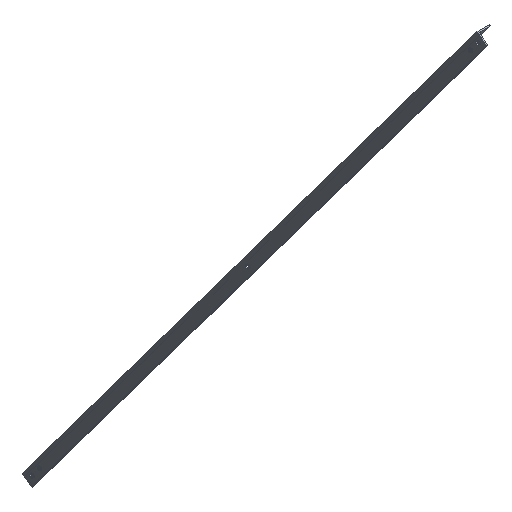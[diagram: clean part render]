
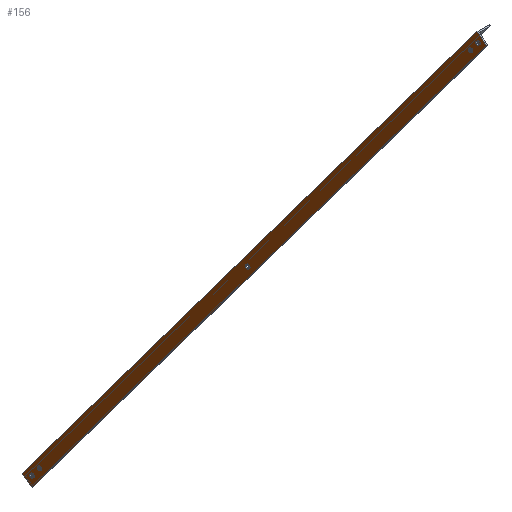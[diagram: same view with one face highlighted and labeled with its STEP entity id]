
A CAD part, isometric view. The second image highlights one B-rep face of the part: STEP entity #156.
In plain terms, the highlighted planar face has unit normal (-1, 0, 0).
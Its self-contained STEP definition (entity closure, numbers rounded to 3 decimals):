
#7 = DIRECTION ( 'NONE',  ( 0., -1., 0. ) ) ;
#8 = CARTESIAN_POINT ( 'NONE',  ( 5., 77.751, 4965.814 ) ) ;
#10 = CARTESIAN_POINT ( 'NONE',  ( 5., 1900.419, 2565.239 ) ) ;
#14 = CIRCLE ( 'NONE', #381, 7. ) ;
#19 = VERTEX_POINT ( 'NONE', #455 ) ;
#23 = ORIENTED_EDGE ( 'NONE', *, *, #548, .F. ) ;
#24 = LINE ( 'NONE', #589, #708 ) ;
#36 = DIRECTION ( 'NONE',  ( 0., -1., 0. ) ) ;
#40 = VERTEX_POINT ( 'NONE', #338 ) ;
#51 = EDGE_CURVE ( 'NONE', #351, #40, #113, .T. ) ;
#67 = DIRECTION ( 'NONE',  ( 0., -1., 0. ) ) ;
#71 = DIRECTION ( 'NONE',  ( 0., -0.598, 0.801 ) ) ;
#72 = DIRECTION ( 'NONE',  ( 0., 0., -1. ) ) ;
#94 = DIRECTION ( 'NONE',  ( 0., -1., 0. ) ) ;
#96 = EDGE_CURVE ( 'NONE', #422, #483, #446, .T. ) ;
#101 = EDGE_CURVE ( 'NONE', #722, #149, #504, .T. ) ;
#102 = AXIS2_PLACEMENT_3D ( 'NONE', #699, #645, #353 ) ;
#113 = CIRCLE ( 'NONE', #681, 7. ) ;
#125 = ORIENTED_EDGE ( 'NONE', *, *, #332, .F. ) ;
#127 = ORIENTED_EDGE ( 'NONE', *, *, #311, .F. ) ;
#128 = CIRCLE ( 'NONE', #621, 7. ) ;
#130 = FACE_BOUND ( 'NONE', #333, .T. ) ;
#131 = ORIENTED_EDGE ( 'NONE', *, *, #101, .F. ) ;
#149 = VERTEX_POINT ( 'NONE', #310 ) ;
#151 = VERTEX_POINT ( 'NONE', #362 ) ;
#156 = ADVANCED_FACE ( 'NONE', ( #130, #467, #372, #429, #255, #185 ), #590, .F. ) ;
#164 = EDGE_CURVE ( 'NONE', #639, #670, #656, .T. ) ;
#167 = DIRECTION ( 'NONE',  ( -1., 0., 0. ) ) ;
#171 = CIRCLE ( 'NONE', #189, 7. ) ;
#175 = DIRECTION ( 'NONE',  ( -1., 0., 0. ) ) ;
#176 = CIRCLE ( 'NONE', #225, 7. ) ;
#185 = FACE_OUTER_BOUND ( 'NONE', #743, .T. ) ;
#189 = AXIS2_PLACEMENT_3D ( 'NONE', #431, #389, #726 ) ;
#195 = CARTESIAN_POINT ( 'NONE',  ( 5., 1860.347, 2535.335 ) ) ;
#198 = CARTESIAN_POINT ( 'NONE',  ( 5., 79.844, 5004.809 ) ) ;
#204 = ORIENTED_EDGE ( 'NONE', *, *, #411, .F. ) ;
#210 = CARTESIAN_POINT ( 'NONE',  ( 5., 1900.419, 2565.239 ) ) ;
#223 = AXIS2_PLACEMENT_3D ( 'NONE', #366, #358, #425 ) ;
#225 = AXIS2_PLACEMENT_3D ( 'NONE', #365, #240, #308 ) ;
#229 = CARTESIAN_POINT ( 'NONE',  ( 5., 107.655, 4925.742 ) ) ;
#237 = CARTESIAN_POINT ( 'NONE',  ( 5., 107.655, 4925.742 ) ) ;
#240 = DIRECTION ( 'NONE',  ( -1., 0., 0. ) ) ;
#255 = FACE_BOUND ( 'NONE', #335, .T. ) ;
#262 = CIRCLE ( 'NONE', #649, 7. ) ;
#267 = CARTESIAN_POINT ( 'NONE',  ( 5., 1000., 3730. ) ) ;
#273 = ORIENTED_EDGE ( 'NONE', *, *, #625, .T. ) ;
#277 = CARTESIAN_POINT ( 'NONE',  ( 5., 1862.441, 2574.33 ) ) ;
#278 = EDGE_LOOP ( 'NONE', ( #400, #574 ) ) ;
#282 = VECTOR ( 'NONE', #673, 1000. ) ;
#301 = LINE ( 'NONE', #198, #474 ) ;
#302 = CARTESIAN_POINT ( 'NONE',  ( 5., 1860.347, 2535.335 ) ) ;
#306 = DIRECTION ( 'NONE',  ( 0., -0.598, 0.801 ) ) ;
#308 = DIRECTION ( 'NONE',  ( 0., -1., 0. ) ) ;
#310 = CARTESIAN_POINT ( 'NONE',  ( 5., 1007., 3730. ) ) ;
#311 = EDGE_CURVE ( 'NONE', #149, #722, #14, .T. ) ;
#316 = VERTEX_POINT ( 'NONE', #331 ) ;
#331 = CARTESIAN_POINT ( 'NONE',  ( 5., 1855.441, 2574.33 ) ) ;
#332 = EDGE_CURVE ( 'NONE', #19, #316, #128, .T. ) ;
#333 = EDGE_LOOP ( 'NONE', ( #643, #558 ) ) ;
#335 = EDGE_LOOP ( 'NONE', ( #23, #569 ) ) ;
#338 = CARTESIAN_POINT ( 'NONE',  ( 5., 70.751, 4965.814 ) ) ;
#340 = AXIS2_PLACEMENT_3D ( 'NONE', #604, #653, #72 ) ;
#348 = EDGE_LOOP ( 'NONE', ( #131, #127 ) ) ;
#351 = VERTEX_POINT ( 'NONE', #676 ) ;
#353 = DIRECTION ( 'NONE',  ( 0., -1., 0. ) ) ;
#358 = DIRECTION ( 'NONE',  ( -1., 0., 0. ) ) ;
#359 = ORIENTED_EDGE ( 'NONE', *, *, #451, .F. ) ;
#361 = CARTESIAN_POINT ( 'NONE',  ( 5., 39.773, 4974.905 ) ) ;
#362 = CARTESIAN_POINT ( 'NONE',  ( 5., 114.655, 4925.742 ) ) ;
#365 = CARTESIAN_POINT ( 'NONE',  ( 5., 1832.536, 2614.401 ) ) ;
#366 = CARTESIAN_POINT ( 'NONE',  ( 5., 1000., 3730. ) ) ;
#372 = FACE_BOUND ( 'NONE', #278, .T. ) ;
#378 = ORIENTED_EDGE ( 'NONE', *, *, #678, .F. ) ;
#381 = AXIS2_PLACEMENT_3D ( 'NONE', #267, #723, #94 ) ;
#385 = EDGE_CURVE ( 'NONE', #40, #351, #171, .T. ) ;
#389 = DIRECTION ( 'NONE',  ( -1., 0., 0. ) ) ;
#391 = CARTESIAN_POINT ( 'NONE',  ( 5., 1839.536, 2614.401 ) ) ;
#400 = ORIENTED_EDGE ( 'NONE', *, *, #557, .F. ) ;
#404 = AXIS2_PLACEMENT_3D ( 'NONE', #237, #462, #7 ) ;
#411 = EDGE_CURVE ( 'NONE', #639, #601, #623, .T. ) ;
#422 = VERTEX_POINT ( 'NONE', #391 ) ;
#425 = DIRECTION ( 'NONE',  ( 0., -1., 0. ) ) ;
#429 = FACE_BOUND ( 'NONE', #741, .T. ) ;
#431 = CARTESIAN_POINT ( 'NONE',  ( 5., 77.751, 4965.814 ) ) ;
#432 = EDGE_CURVE ( 'NONE', #151, #610, #262, .T. ) ;
#441 = DIRECTION ( 'NONE',  ( -1., 0., 0. ) ) ;
#446 = CIRCLE ( 'NONE', #102, 7. ) ;
#447 = CARTESIAN_POINT ( 'NONE',  ( 5., 1825.536, 2614.401 ) ) ;
#451 = EDGE_CURVE ( 'NONE', #316, #19, #535, .T. ) ;
#455 = CARTESIAN_POINT ( 'NONE',  ( 5., 1869.441, 2574.33 ) ) ;
#462 = DIRECTION ( 'NONE',  ( -1., 0., 0. ) ) ;
#467 = FACE_BOUND ( 'NONE', #348, .T. ) ;
#474 = VECTOR ( 'NONE', #478, 1000. ) ;
#478 = DIRECTION ( 'NONE',  ( 0., 0.801, 0.598 ) ) ;
#483 = VERTEX_POINT ( 'NONE', #447 ) ;
#492 = VERTEX_POINT ( 'NONE', #519 ) ;
#493 = VECTOR ( 'NONE', #306, 1000. ) ;
#504 = CIRCLE ( 'NONE', #223, 7. ) ;
#519 = CARTESIAN_POINT ( 'NONE',  ( 5., 79.844, 5004.809 ) ) ;
#525 = ORIENTED_EDGE ( 'NONE', *, *, #164, .T. ) ;
#535 = CIRCLE ( 'NONE', #636, 7. ) ;
#548 = EDGE_CURVE ( 'NONE', #610, #151, #728, .T. ) ;
#557 = EDGE_CURVE ( 'NONE', #483, #422, #176, .T. ) ;
#558 = ORIENTED_EDGE ( 'NONE', *, *, #51, .F. ) ;
#569 = ORIENTED_EDGE ( 'NONE', *, *, #432, .F. ) ;
#574 = ORIENTED_EDGE ( 'NONE', *, *, #96, .F. ) ;
#589 = CARTESIAN_POINT ( 'NONE',  ( 5., 1900.419, 2565.239 ) ) ;
#590 = PLANE ( 'NONE',  #340 ) ;
#601 = VERTEX_POINT ( 'NONE', #10 ) ;
#604 = CARTESIAN_POINT ( 'NONE',  ( 5., 1900.419, 2565.239 ) ) ;
#610 = VERTEX_POINT ( 'NONE', #709 ) ;
#621 = AXIS2_PLACEMENT_3D ( 'NONE', #665, #441, #36 ) ;
#623 = LINE ( 'NONE', #210, #282 ) ;
#625 = EDGE_CURVE ( 'NONE', #670, #492, #301, .T. ) ;
#636 = AXIS2_PLACEMENT_3D ( 'NONE', #277, #175, #739 ) ;
#639 = VERTEX_POINT ( 'NONE', #195 ) ;
#641 = DIRECTION ( 'NONE',  ( -1., 0., 0. ) ) ;
#643 = ORIENTED_EDGE ( 'NONE', *, *, #385, .F. ) ;
#645 = DIRECTION ( 'NONE',  ( -1., 0., 0. ) ) ;
#649 = AXIS2_PLACEMENT_3D ( 'NONE', #229, #641, #683 ) ;
#653 = DIRECTION ( 'NONE',  ( 1., 0., 0. ) ) ;
#656 = LINE ( 'NONE', #302, #493 ) ;
#665 = CARTESIAN_POINT ( 'NONE',  ( 5., 1862.441, 2574.33 ) ) ;
#670 = VERTEX_POINT ( 'NONE', #361 ) ;
#673 = DIRECTION ( 'NONE',  ( 0., 0.801, 0.598 ) ) ;
#676 = CARTESIAN_POINT ( 'NONE',  ( 5., 84.751, 4965.814 ) ) ;
#678 = EDGE_CURVE ( 'NONE', #601, #492, #24, .T. ) ;
#681 = AXIS2_PLACEMENT_3D ( 'NONE', #8, #167, #67 ) ;
#683 = DIRECTION ( 'NONE',  ( 0., -1., 0. ) ) ;
#699 = CARTESIAN_POINT ( 'NONE',  ( 5., 1832.536, 2614.401 ) ) ;
#708 = VECTOR ( 'NONE', #71, 1000. ) ;
#709 = CARTESIAN_POINT ( 'NONE',  ( 5., 100.655, 4925.742 ) ) ;
#722 = VERTEX_POINT ( 'NONE', #732 ) ;
#723 = DIRECTION ( 'NONE',  ( -1., 0., 0. ) ) ;
#726 = DIRECTION ( 'NONE',  ( 0., -1., 0. ) ) ;
#728 = CIRCLE ( 'NONE', #404, 7. ) ;
#732 = CARTESIAN_POINT ( 'NONE',  ( 5., 993., 3730. ) ) ;
#739 = DIRECTION ( 'NONE',  ( 0., -1., 0. ) ) ;
#741 = EDGE_LOOP ( 'NONE', ( #359, #125 ) ) ;
#743 = EDGE_LOOP ( 'NONE', ( #273, #378, #204, #525 ) ) ;
